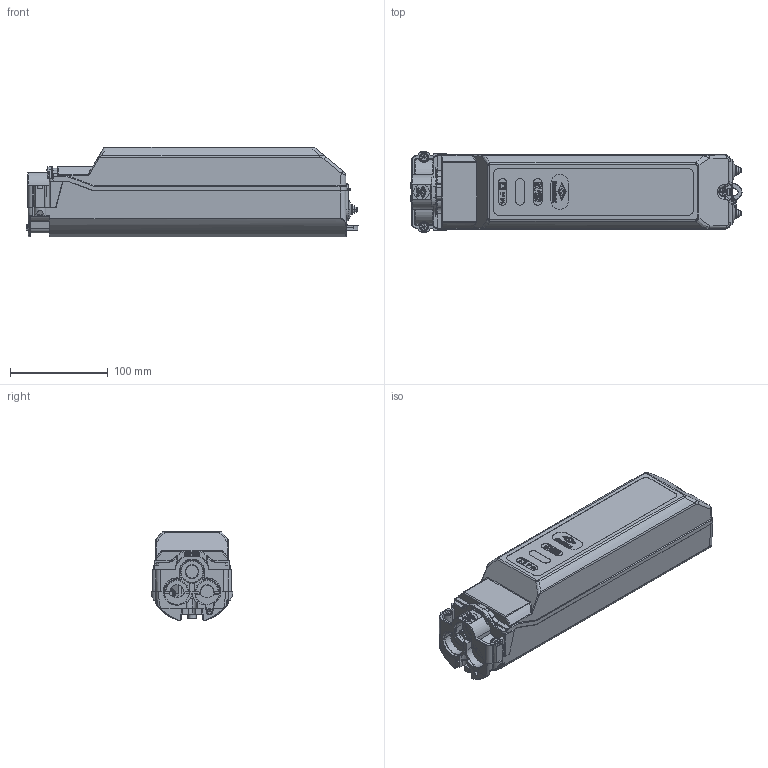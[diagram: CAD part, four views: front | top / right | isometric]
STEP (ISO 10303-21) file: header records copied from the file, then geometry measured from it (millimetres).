
FILE_DESCRIPTION (( 'STEP AP203' ), '1' );
FILE_NAME ('3D - HSW2529 Außenkontur.STEP', '2019-06-28T08:47:07', ( '' ), ( '' ), 'SwSTEP 2.0', 'SolidWorks 2013', '' );
FILE_SCHEMA (( 'CONFIG_CONTROL_DESIGN' ));
Length unit declared in the file: millimetre
Products named in the file (1): 3D - HSW2529 Außenkontur
Bounding box: 339.54 x 83.5 x 91.61 mm (x, y, z)
Surface area: 133731.4 mm2 (no closed solid volume)
Topology: 0 solids, 24 shells, 1193 faces, 4208 edges, 2953 vertices
Faces by surface type: plane 534, cylinder 304, bspline 153, cone 101, torus 93, sphere 8
Entity records: 55672 total; most frequent: CARTESIAN_POINT 21941, ORIENTED_EDGE 6795, DIRECTION 6331, EDGE_CURVE 4198, VERTEX_POINT 2953, VECTOR 2429, LINE 2429, AXIS2_PLACEMENT_3D 1951
